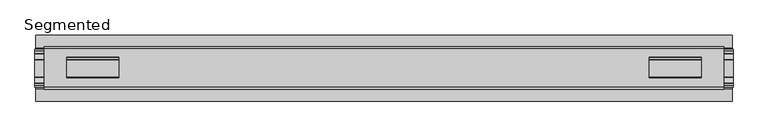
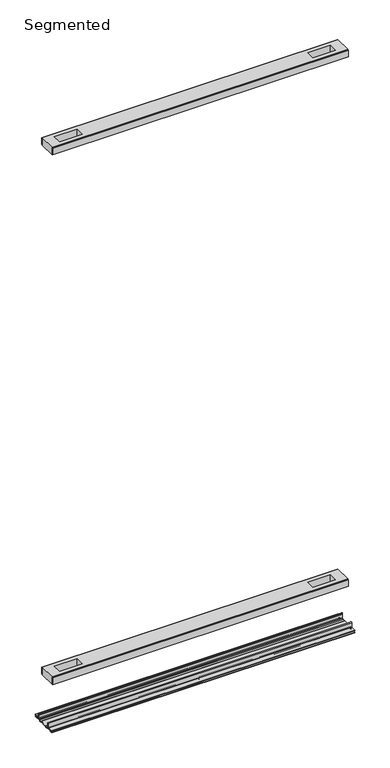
"""IFC4 building model written with IfcOpenShell, lengths in millimetres: proxy geometry, Frame-Teknion-FHCRA-Horizontal_Rail-R2022 : Segmented."""

from ifc_helpers import new_model, si_unit, point, frame, frame_2d, origin, place, context, project, spatial, polyline, circle_curve, trimmed, segment, composite_curve, outline, extrude, source, transform, mapped, element, save


def segmented_fd5f3116(model_context):
    return source(origin(), model_context, "Body", "SweptSolid", [
        extrude(outline(polyline([(517.4615091, 29.0068005), (-517.4615091, 29.0068005), (-517.4615091, 32.1817997), (517.4615091, 32.1817997), (517.4615091, 29.0068005)])), frame((0.0, 0.0, 2107.0117561), z_axis=(0.0, 0.0, 1.0), x_axis=(1.0, 0.0, 0.0)), (0.0, 0.0, 1.0), 25.3999939),
        extrude(outline(polyline([(517.4615091, -32.1817997), (-517.4615091, -32.1817997), (-517.4615091, -29.0068005), (517.4615091, -29.0068005), (517.4615091, -32.1817997)])), frame((0.0, 0.0, 2107.0117561), z_axis=(0.0, 0.0, 1.0), x_axis=(1.0, 0.0, 0.0)), (0.0, 0.0, 1.0), 25.3999939),
        extrude(outline(polyline([(517.4615091, -29.0068005), (-517.4615091, -29.0068005), (-517.4615091, 29.0068005), (517.4615091, 29.0068005), (517.4615091, -29.0068005)]), holes=[polyline([(483.0444965, -15.1130038), (483.0444965, 15.875003), (403.9996847, 15.875003), (403.9996847, -15.1130038), (483.0444965, -15.1130038)]), polyline([(-483.0444965, -15.1130038), (-403.9996847, -15.1130038), (-403.9996847, 15.875003), (-483.0444965, 15.875003), (-483.0444965, -15.1130038)])]), frame((0.0, 0.0, 2105.5901786), z_axis=(0.0, 0.0, 1.0), x_axis=(1.0, 0.0, 0.0)), (0.0, 0.0, 1.0), 27.9999988),
        extrude(outline(polyline([(517.4615091, 29.0068005), (-517.4615091, 29.0068005), (-517.4615091, 32.1817997), (517.4615091, 32.1817997), (517.4615091, 29.0068005)])), frame((0.0, 0.0, 149.8401622), z_axis=(0.0, 0.0, 1.0), x_axis=(1.0, 0.0, 0.0)), (0.0, 0.0, 1.0), 25.3999939),
        extrude(outline(polyline([(517.4615091, -32.1817997), (-517.4615091, -32.1817997), (-517.4615091, -29.0068005), (517.4615091, -29.0068005), (517.4615091, -32.1817997)])), frame((0.0, 0.0, 149.8401622), z_axis=(0.0, 0.0, 1.0), x_axis=(1.0, 0.0, 0.0)), (0.0, 0.0, 1.0), 25.3999939),
        extrude(outline(polyline([(517.4615091, -29.0068005), (-517.4615091, -29.0068005), (-517.4615091, 29.0068005), (517.4615091, 29.0068005), (517.4615091, -29.0068005)]), holes=[polyline([(483.0444965, -15.1130038), (483.0444965, 15.875003), (403.9996847, 15.875003), (403.9996847, -15.1130038), (483.0444965, -15.1130038)]), polyline([(-483.0444965, -15.1130038), (-403.9996847, -15.1130038), (-403.9996847, 15.875003), (-483.0444965, 15.875003), (-483.0444965, -15.1130038)])]), frame((0.0, 0.0, 148.4185847), z_axis=(0.0, 0.0, 1.0), x_axis=(1.0, 0.0, 0.0)), (0.0, 0.0, 1.0), 27.9999988),
        extrude(outline(composite_curve([segment(trimmed(circle_curve(frame_2d((26.6420561, -7.7516037)), 2.17424), [point((28.8162961, -7.7516037))], [point((26.6420561, -9.9258438))], False, "CARTESIAN"), True, "CONTINUOUS"), segment(polyline([(26.6420561, -9.9258438), (22.3510694, -9.9258438)]), True, "CONTINUOUS"), segment(trimmed(circle_curve(frame_2d((17.7706549, -6.4800016)), 5.7318431), [point((22.3510694, -9.9258438))], [point((13.1902404, -9.9258438))], False, "CARTESIAN"), True, "CONTINUOUS"), segment(polyline([(13.1902404, -9.9258438), (-13.57124, -9.9258438)]), True, "CONTINUOUS"), segment(trimmed(circle_curve(frame_2d((-18.1516545, -6.4800016)), 5.7318431), [point((-13.57124, -9.9258438))], [point((-22.732069, -9.9258438))], False, "CARTESIAN"), True, "CONTINUOUS"), segment(polyline([(-22.732069, -9.9258438), (-27.0230557, -9.9258438)]), True, "CONTINUOUS"), segment(trimmed(circle_curve(frame_2d((-27.0230557, -7.7516037)), 2.17424), [point((-27.0230557, -9.9258438))], [point((-29.1972958, -7.7516037))], False, "CARTESIAN"), True, "CONTINUOUS"), segment(polyline([(-29.1972958, -7.7516037), (-29.1972958, 9.8607558)]), True, "CONTINUOUS"), segment(trimmed(circle_curve(frame_2d((-27.9780978, 9.8607558)), 1.2191979), [point((-29.1972958, 9.8607558))], [point((-26.7588999, 9.8607558))], False, "CARTESIAN"), True, "CONTINUOUS"), segment(polyline([(-26.7588999, 9.8607558), (-26.7588999, 5.9999563), (-28.0390765, 5.9999563), (-28.0390765, -7.7516037)]), True, "CONTINUOUS"), segment(trimmed(circle_curve(frame_2d((-27.0230557, -7.7516037)), 1.0160208), [point((-28.0390765, -7.7516037))], [point((-27.0295728, -8.7676036))], True, "CARTESIAN"), True, "CONTINUOUS"), segment(polyline([(-27.0295728, -8.7676036), (-23.0866222, -8.7676036), (-22.1732605, -8.968753)]), True, "CONTINUOUS"), segment(trimmed(circle_curve(frame_2d((-18.1483018, -6.1259382)), 4.9276657), [point((-22.1732605, -8.968753))], [point((-14.123343, -8.968753))], True, "CARTESIAN"), True, "CONTINUOUS"), segment(polyline([(-14.123343, -8.968753), (-13.2099722, -8.7676036), (12.8289726, -8.7676036), (13.7423434, -8.968753)]), True, "CONTINUOUS"), segment(trimmed(circle_curve(frame_2d((17.7673021, -6.1259382)), 4.9276657), [point((13.7423434, -8.968753))], [point((21.7922609, -8.968753))], True, "CARTESIAN"), True, "CONTINUOUS"), segment(polyline([(21.7922609, -8.968753), (22.7056226, -8.7676036), (26.6485732, -8.7676036)]), True, "CONTINUOUS"), segment(trimmed(circle_curve(frame_2d((26.6420561, -7.7516037)), 1.0160208), [point((26.6485732, -8.7676036))], [point((27.6580769, -7.7516037))], True, "CARTESIAN"), True, "CONTINUOUS"), segment(polyline([(27.6580769, -7.7516037), (27.6580769, 5.9999563), (26.3779003, 5.9999563), (26.3779003, 9.8607558)]), True, "CONTINUOUS"), segment(trimmed(circle_curve(frame_2d((27.5970982, 9.8607558)), 1.2191979), [point((26.3779003, 9.8607558))], [point((28.8162961, 9.8607558))], False, "CARTESIAN"), True, "CONTINUOUS"), segment(polyline([(28.8162961, 9.8607558), (28.8162961, -7.7516037)]), True, "CONTINUOUS")], self_intersect=False)), frame((-531.5204, 0.0, 0.0), z_axis=(1.0, 0.0, 0.0), x_axis=(0.0, 1.0, 0.0)), (0.0, 0.0, 1.0), 1063.0408),
        extrude(outline(composite_curve([segment(polyline([(50.2668422, -13.9898438), (39.6557522, -13.9898438)]), True, "CONTINUOUS"), segment(trimmed(circle_curve(frame_2d((39.6557522, -12.4658438)), 1.524), [point((39.6557522, -13.9898438))], [point((38.1317522, -12.4658438))], False, "CARTESIAN"), True, "CONTINUOUS"), segment(polyline([(38.1317522, -12.4658438), (38.1317522, -7.766844), (31.3054974, -7.766844), (31.3054974, -10.0528438)]), True, "CONTINUOUS"), segment(trimmed(circle_curve(frame_2d((29.7814974, -10.0528438)), 1.524), [point((31.3054974, -10.0528438))], [point((29.7814974, -11.5768438))], False, "CARTESIAN"), True, "CONTINUOUS"), segment(polyline([(29.7814974, -11.5768438), (23.2753553, -11.5768438)]), True, "CONTINUOUS"), segment(trimmed(circle_curve(frame_2d((17.7673021, -6.4968436)), 7.4930002), [point((23.2753553, -11.5768438))], [point((12.5094972, -11.8354331))], False, "CARTESIAN"), True, "CONTINUOUS"), segment(polyline([(12.5094972, -11.8354331), (-12.8904968, -11.8354331)]), True, "CONTINUOUS"), segment(trimmed(circle_curve(frame_2d((-18.1483018, -6.4968436)), 7.4930002), [point((-12.8904968, -11.8354331))], [point((-23.6563549, -11.5768438))], False, "CARTESIAN"), True, "CONTINUOUS"), segment(polyline([(-23.6563549, -11.5768438), (-30.1624971, -11.5768438)]), True, "CONTINUOUS"), segment(trimmed(circle_curve(frame_2d((-30.1624971, -10.0528438)), 1.524), [point((-30.1624971, -11.5768438))], [point((-31.686497, -10.0528438))], False, "CARTESIAN"), True, "CONTINUOUS"), segment(polyline([(-31.686497, -10.0528438), (-31.686497, -7.766844), (-38.5127519, -7.766844), (-38.5127519, -12.4658438)]), True, "CONTINUOUS"), segment(trimmed(circle_curve(frame_2d((-40.0367518, -12.4658438)), 1.524), [point((-38.5127519, -12.4658438))], [point((-40.0367518, -13.9898438))], False, "CARTESIAN"), True, "CONTINUOUS"), segment(polyline([(-40.0367518, -13.9898438), (-50.00625, -13.9898438), (-50.00625, -12.3388438), (-40.1637503, -12.3388438), (-40.1637503, -7.766844), (-50.00625, -7.766844), (-50.00625, -6.1158439), (-31.6239218, -6.1158439)]), True, "CONTINUOUS"), segment(trimmed(circle_curve(frame_2d((-31.6864982, -7.7656583)), 1.6510007), [point((-31.6239218, -6.1158439))], [point((-30.0354975, -7.7656583))], False, "CARTESIAN"), True, "CONTINUOUS"), segment(polyline([(-30.0354975, -7.7656583), (-30.0354975, -9.9258438), (-23.486834, -9.9258438)]), True, "CONTINUOUS"), segment(trimmed(circle_curve(frame_2d((-18.1483018, -5.2268471)), 7.1119966), [point((-23.486834, -9.9258438))], [point((-12.8097695, -9.9258438))], True, "CARTESIAN"), True, "CONTINUOUS"), segment(polyline([(-12.8097695, -9.9258438), (12.4287699, -9.9258438)]), True, "CONTINUOUS"), segment(trimmed(circle_curve(frame_2d((17.7673021, -5.2268471)), 7.1119966), [point((12.4287699, -9.9258438))], [point((23.1058344, -9.9258438))], True, "CARTESIAN"), True, "CONTINUOUS"), segment(polyline([(23.1058344, -9.9258438), (29.6544978, -9.9258438), (29.6544978, -7.6398436)]), True, "CONTINUOUS"), segment(trimmed(circle_curve(frame_2d((31.1784975, -7.6398436)), 1.5239997), [point((29.6544978, -7.6398436))], [point((31.1784975, -6.1158439))], False, "CARTESIAN"), True, "CONTINUOUS"), segment(polyline([(31.1784975, -6.1158439), (50.2668422, -6.1158439), (50.2240211, -7.766844), (39.7827507, -7.766844), (39.7827507, -12.3388438), (50.2240211, -12.3388438), (50.2668422, -13.9898438)]), True, "CONTINUOUS")], self_intersect=False)), frame((-529.8694, 0.0, 0.0), z_axis=(1.0, 0.0, 0.0), x_axis=(0.0, 1.0, 0.0)), (0.0, 0.0, 1.0), 1059.7388),
    ])


if __name__ == "__main__":
    model = new_model("IFC4")
    model_context = context("Model", 3, world=origin())
    ifc_project = project(units=[si_unit("LENGTHUNIT", "METRE", prefix="MILLI")], contexts=[model_context])
    site = spatial("IfcSite", under=ifc_project)
    building = spatial("IfcBuilding", under=site)
    placement = place(None, origin())
    segmented_shape = segmented_fd5f3116(model_context)
    element("IfcBuildingElementProxy", 1, Name="Frame-Teknion-FHCRA-Horizontal_Rail-R2022 : Segmented", ObjectType="Frame-Teknion-FHCRA-Horizontal_Rail-R2022 : Segmented", at=placement, inside=building, context=model_context, shape_type="MappedRepresentation", body=[
        mapped(segmented_shape, transform((0.0, 0.0, 0.0), x_axis=(1.0, 0.0, 0.0), y_axis=(0.0, 1.0, 0.0), z_axis=(0.0, 0.0, 1.0))),
    ])
    save(model, "model.ifc")
